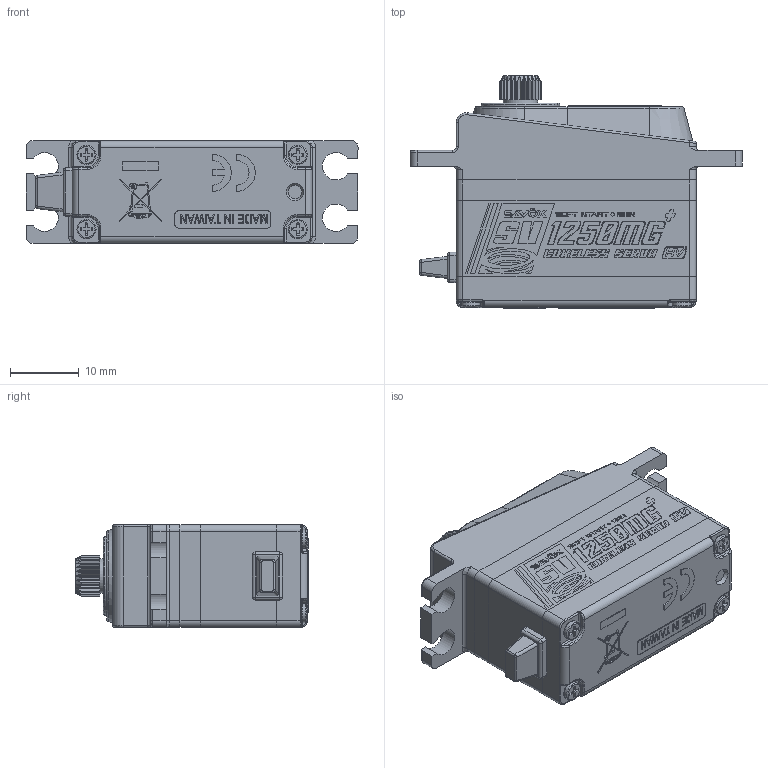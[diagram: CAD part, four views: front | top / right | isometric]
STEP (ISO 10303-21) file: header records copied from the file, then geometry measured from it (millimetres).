
FILE_DESCRIPTION (( 'STEP AP214' ), '1' );
FILE_NAME ('SV-1250MG+_3D??+??.STEP', '2025-04-16T09:47:07', ( '' ), ( '' ), 'SwSTEP 2.0', 'SolidWorks 2024', '' );
FILE_SCHEMA (( 'AUTOMOTIVE_DESIGN' ));
Length unit declared in the file: millimetre
Products named in the file (1): SV-1250MG+_3D零件+齒輪
Bounding box: 48.4 x 33.9 x 15 mm (x, y, z)
Volume: 15473.6 mm3; surface area: 4520 mm2
Topology: 1 solids, 1 shells, 865 faces, 4646 edges, 3963 vertices
Faces by surface type: plane 542, cylinder 212, bspline 105, cone 6
Full cylindrical faces by diameter (mm): 0.287 x1, 0.547 x1, 2.5 x1, 2.8 x4, 5 x1, 6 x1, 6.1 x1, 11.4 x1
Entity records: 61428 total; most frequent: CARTESIAN_POINT 16862, ORIENTED_EDGE 9218, DIRECTION 5061, EDGE_CURVE 4609, VERTEX_POINT 3952, LINE 2675, VECTOR 2675, B_SPLINE_CURVE_WITH_KNOTS 1424
